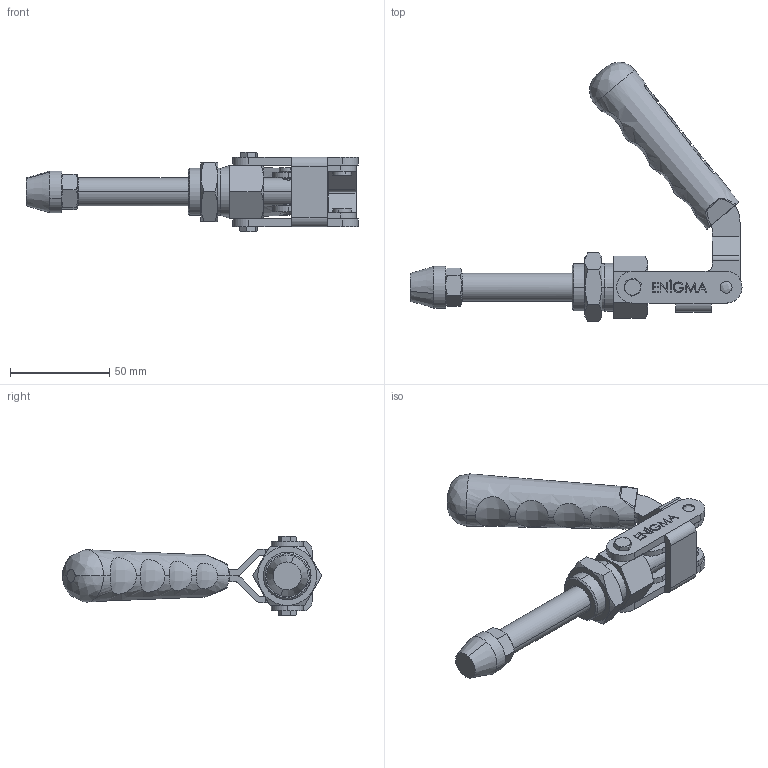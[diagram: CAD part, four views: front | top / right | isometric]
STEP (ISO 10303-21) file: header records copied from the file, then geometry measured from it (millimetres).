
FILE_DESCRIPTION (( 'STEP AP203' ), '1' );
FILE_NAME ('16014_T.STEP', '2022-11-28T05:26:59', ( '' ), ( '' ), 'SwSTEP 2.0', 'SolidWorks 2023', '' );
FILE_SCHEMA (( 'CONFIG_CONTROL_DESIGN' ));
Length unit declared in the file: millimetre
Products named in the file (13): M24x1_5x8_Kontra_Somun_Varsay_X2_0131_X0_lan; 16014_Alt_X2_0131_X0_genG_X2_00f6_X0_vde_Varsay_X2_0131_X0_lan; M10 Somun_Varsay_X2_0131_X0_lan; M5x6x10_Kademeli_Civata_Varsay_X2_0131_X0_lan; 16014__X2_00d8_X0_14_Mil_Varsay_X2_0131_X0_lan; 16014 & 16016_MAFSAL_Varsay_X2_0131_X0_lan; Bask_X2_0131_X0_ M10_Varsay_X2_0131_X0_lan; 6x24_5_PER_X2_00c70130_X0_N_Varsay_X2_0131_X0_lan; 16014_T; C95_Yeni_Tutamak_Varsay_X2_0131_X0_lan; 6x9_5_DOLU_PER_X2_00c70130_X0_N_Varsay_X2_0131_X0_lan; Aynalama16014 & 16016_HAREKET_KOLU_Varsay_X2_0131_X0_lan; 16014 & 16016_HAREKET_KOLU_Varsay_X2_0131_X0_lan
Assembly tree (14 placements, depth 2):
  16014_T
    16014 & 16016_HAREKET_KOLU_Varsay_X2_0131_X0_lan
    16014 & 16016_MAFSAL_Varsay_X2_0131_X0_lan
    16014_Alt_X2_0131_X0_genG_X2_00f6_X0_vde_Varsay_X2_0131_X0_lan
    6x24_5_PER_X2_00c70130_X0_N_Varsay_X2_0131_X0_lan
    6x9_5_DOLU_PER_X2_00c70130_X0_N_Varsay_X2_0131_X0_lan  x2
    C95_Yeni_Tutamak_Varsay_X2_0131_X0_lan
    M5x6x10_Kademeli_Civata_Varsay_X2_0131_X0_lan  x2
    16014__X2_00d8_X0_14_Mil_Varsay_X2_0131_X0_lan
    M24x1_5x8_Kontra_Somun_Varsay_X2_0131_X0_lan
    Aynalama16014 & 16016_HAREKET_KOLU_Varsay_X2_0131_X0_lan
    M10 Somun_Varsay_X2_0131_X0_lan
    Bask_X2_0131_X0_ M10_Varsay_X2_0131_X0_lan
Bounding box: 167 x 130.44 x 39.9 mm (x, y, z)
Volume: 99962.2 mm3; surface area: 52603.3 mm2
Topology: 14 solids, 14 shells, 557 faces, 1419 edges, 917 vertices
Faces by surface type: plane 303, cylinder 134, cone 73, bspline 47
Entity records: 20280 total; most frequent: CARTESIAN_POINT 6209, ORIENTED_EDGE 2694, DIRECTION 2523, EDGE_CURVE 1347, VERTEX_POINT 874, AXIS2_PLACEMENT_3D 841, VECTOR 841, LINE 841
